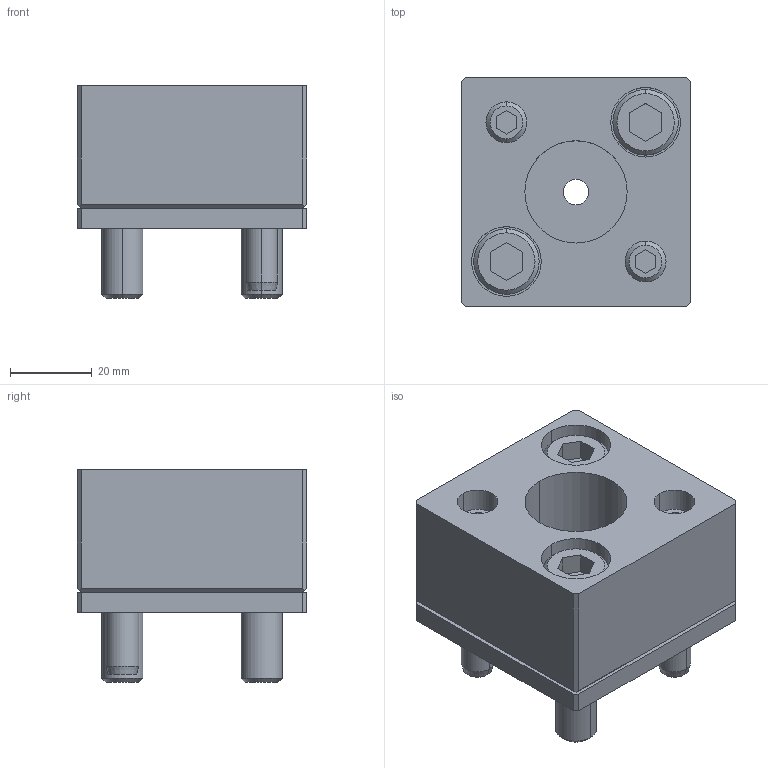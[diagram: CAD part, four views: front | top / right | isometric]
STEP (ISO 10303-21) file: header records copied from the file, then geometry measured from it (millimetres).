
FILE_DESCRIPTION(/* description */ (''),/* implementation_level */ '2;1');
FILE_NAME(/* name */ '3d_sa-fp25_03072_r00.stp',/* time_stamp */ '2011-01-10T14:11:28+09:00',/* author */ ('MISUMI'),/* organization */ (''),/* preprocessor_version */ 'ST-DEVELOPER v11',/* originating_system */ 'UGS - NX 5.0',/* authorisation */ '');
FILE_SCHEMA (('CONFIG_CONTROL_DESIGN'));
Length unit declared in the file: millimetre
Products named in the file (1): 3d_sa-fp25_03072_r00
Bounding box: 56 x 56 x 52 mm (x, y, z)
Volume: 91908.9 mm3; surface area: 32753.2 mm2
Topology: 8 solids, 8 shells, 159 faces, 362 edges, 233 vertices
Faces by surface type: plane 78, cylinder 55, cone 26
Entity records: 4620 total; most frequent: DIRECTION 814, CARTESIAN_POINT 800, ORIENTED_EDGE 724, EDGE_CURVE 362, AXIS2_PLACEMENT_3D 297, VERTEX_POINT 233, LINE 220, VECTOR 220
